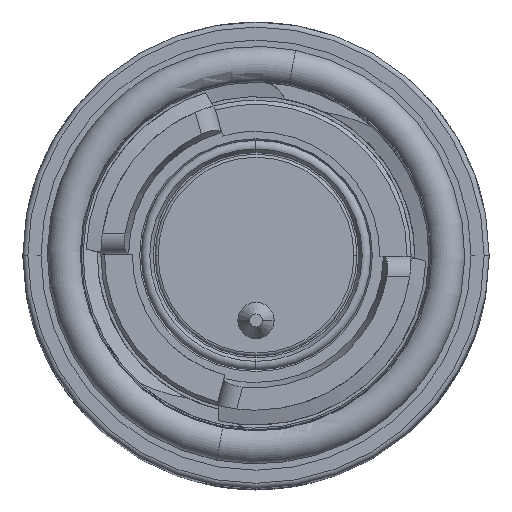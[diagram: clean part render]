
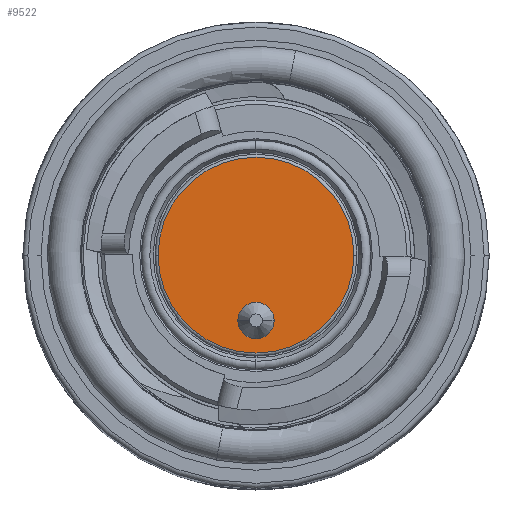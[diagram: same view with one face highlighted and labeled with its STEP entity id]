
A CAD part, top view. The second image highlights one B-rep face of the part: STEP entity #9522.
In plain terms, the highlighted planar face has unit normal (0, 0, 1).
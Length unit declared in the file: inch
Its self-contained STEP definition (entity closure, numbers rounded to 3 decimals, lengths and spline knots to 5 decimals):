
#2 = DIRECTION ( 'NONE',  ( 0., 0., -1. ) ) ;
#140 = DIRECTION ( 'NONE',  ( -1., 0., 0. ) ) ;
#211 = CARTESIAN_POINT ( 'NONE',  ( -0.1908, 0., -0.1811 ) ) ;
#551 = VERTEX_POINT ( 'NONE', #7587 ) ;
#860 = PLANE ( 'NONE',  #4290 ) ;
#875 = DIRECTION ( 'NONE',  ( 0., 0., 1. ) ) ;
#1059 = CIRCLE ( 'NONE', #6712, 0.0354 ) ;
#1093 = EDGE_LOOP ( 'NONE', ( #2626, #1903 ) ) ;
#1501 = EDGE_CURVE ( 'NONE', #7770, #551, #1059, .T. ) ;
#1903 = ORIENTED_EDGE ( 'NONE', *, *, #3210, .T. ) ;
#2338 = CIRCLE ( 'NONE', #7811, 0.19134 ) ;
#2626 = ORIENTED_EDGE ( 'NONE', *, *, #1501, .T. ) ;
#3210 = EDGE_CURVE ( 'NONE', #551, #7770, #3606, .T. ) ;
#3559 = DIRECTION ( 'NONE',  ( 0., 0., -1. ) ) ;
#3606 = CIRCLE ( 'NONE', #6884, 0.0354 ) ;
#3617 = CARTESIAN_POINT ( 'NONE',  ( 0., -0.12795, -0.1811 ) ) ;
#3833 = CARTESIAN_POINT ( 'NONE',  ( 0., 0., -0.1811 ) ) ;
#3909 = DIRECTION ( 'NONE',  ( 0., 0., -1. ) ) ;
#4255 = EDGE_CURVE ( 'NONE', #8710, #8085, #2338, .T. ) ;
#4290 = AXIS2_PLACEMENT_3D ( 'NONE', #211, #3909, #5328 ) ;
#4334 = CARTESIAN_POINT ( 'NONE',  ( 0.0354, -0.12795, -0.1811 ) ) ;
#4347 = DIRECTION ( 'NONE',  ( 0., 0., 1. ) ) ;
#4895 = ORIENTED_EDGE ( 'NONE', *, *, #4255, .T. ) ;
#5133 = DIRECTION ( 'NONE',  ( -1., 0., 0. ) ) ;
#5328 = DIRECTION ( 'NONE',  ( -1., 0., 0. ) ) ;
#5346 = DIRECTION ( 'NONE',  ( -1., 0., 0. ) ) ;
#5375 = FACE_OUTER_BOUND ( 'NONE', #6967, .T. ) ;
#5476 = CARTESIAN_POINT ( 'NONE',  ( 0.19134, 0., -0.1811 ) ) ;
#5968 = AXIS2_PLACEMENT_3D ( 'NONE', #3833, #875, #5346 ) ;
#6655 = DIRECTION ( 'NONE',  ( -1., 0., 0. ) ) ;
#6712 = AXIS2_PLACEMENT_3D ( 'NONE', #7510, #2, #140 ) ;
#6882 = EDGE_CURVE ( 'NONE', #8085, #8710, #9101, .T. ) ;
#6884 = AXIS2_PLACEMENT_3D ( 'NONE', #3617, #3559, #6655 ) ;
#6967 = EDGE_LOOP ( 'NONE', ( #4895, #8100 ) ) ;
#7290 = CARTESIAN_POINT ( 'NONE',  ( 0., 0., -0.1811 ) ) ;
#7510 = CARTESIAN_POINT ( 'NONE',  ( 0., -0.12795, -0.1811 ) ) ;
#7587 = CARTESIAN_POINT ( 'NONE',  ( -0.0354, -0.12795, -0.1811 ) ) ;
#7770 = VERTEX_POINT ( 'NONE', #4334 ) ;
#7811 = AXIS2_PLACEMENT_3D ( 'NONE', #7290, #4347, #5133 ) ;
#8085 = VERTEX_POINT ( 'NONE', #5476 ) ;
#8100 = ORIENTED_EDGE ( 'NONE', *, *, #6882, .T. ) ;
#8511 = CARTESIAN_POINT ( 'NONE',  ( -0.19134, 0., -0.1811 ) ) ;
#8710 = VERTEX_POINT ( 'NONE', #8511 ) ;
#9101 = CIRCLE ( 'NONE', #5968, 0.19134 ) ;
#9189 = FACE_BOUND ( 'NONE', #1093, .T. ) ;
#9522 = ADVANCED_FACE ( 'NONE', ( #5375, #9189 ), #860, .F. ) ;
